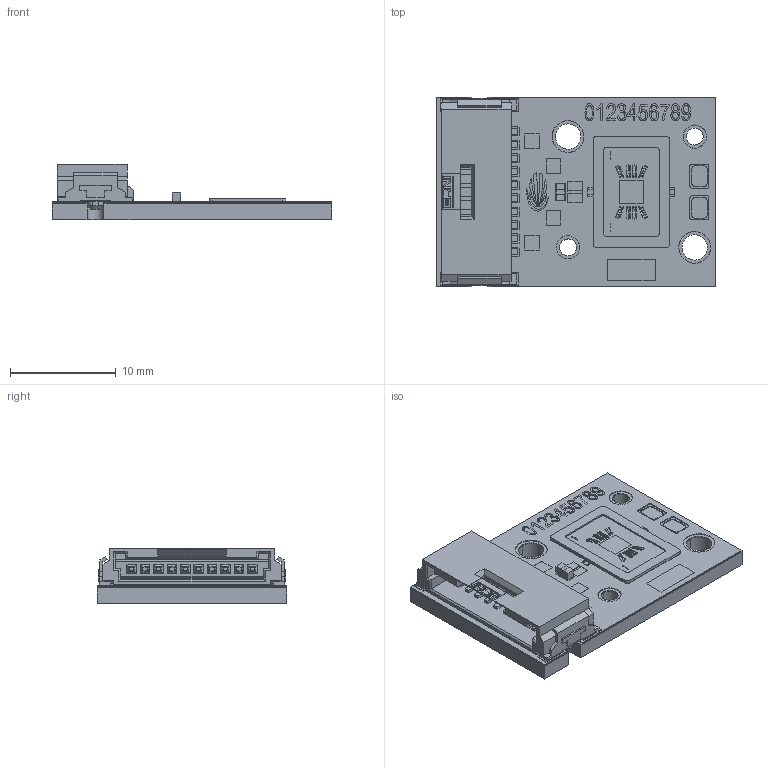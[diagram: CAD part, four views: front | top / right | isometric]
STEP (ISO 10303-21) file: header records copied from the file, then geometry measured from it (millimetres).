
FILE_DESCRIPTION(/* description */ (''),/* implementation_level */ '2;1');
FILE_NAME(/* name */ 'STEC177',/* time_stamp */ '2025-01-14T14:33:39+08:00',/* author */ (''),/* organization */ (''),/* preprocessor_version */ 'ST-DEVELOPER v16.5',/* originating_system */ '',/* authorisation */ '');
FILE_SCHEMA (('CONFIG_CONTROL_DESIGN'));
Length unit declared in the file: millimetre
Products named in the file (2): Document; 图块 01
Assembly tree (1 placements, depth 2):
  Document
    图块 01
Bounding box: 26.5 x 18 x 5.23 mm (x, y, z)
Volume: 1068.1 mm3; surface area: 1914.2 mm2
Topology: 7 solids, 7 shells, 1386 faces, 3416 edges, 2274 vertices
Faces by surface type: plane 848, cylinder 426, bspline 112
Entity records: 50887 total; most frequent: CARTESIAN_POINT 21380, ORIENTED_EDGE 6832, EDGE_CURVE 3416, B_SPLINE_CURVE_WITH_KNOTS 2459, VERTEX_POINT 2274, EDGE_LOOP 1678, ADVANCED_FACE 1386, FACE_OUTER_BOUND 1386
